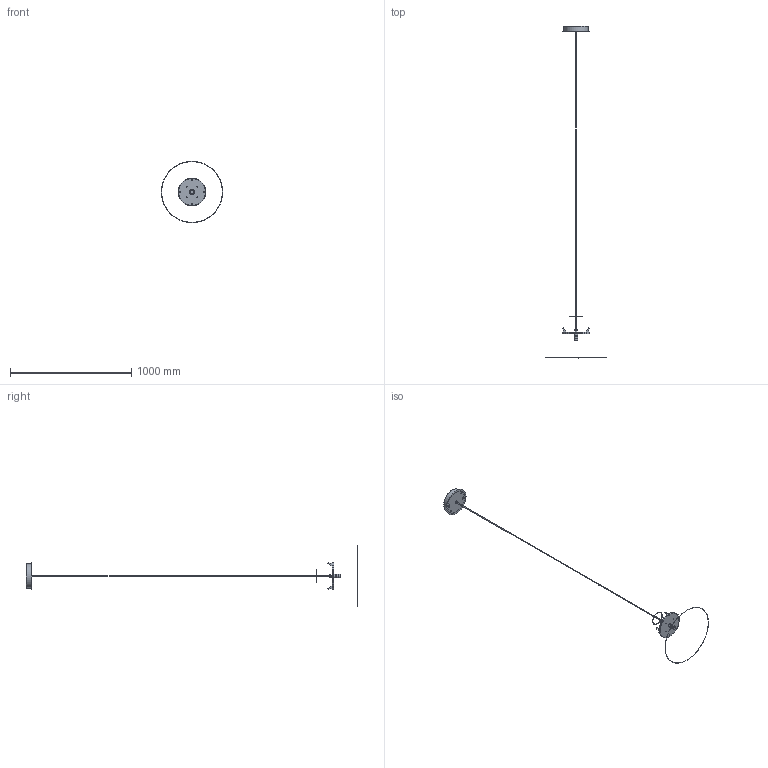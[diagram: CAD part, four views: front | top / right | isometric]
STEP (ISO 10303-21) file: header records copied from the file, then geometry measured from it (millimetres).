
FILE_DESCRIPTION(/* description */ (''),/* implementation_level */ '2;1');
FILE_NAME(/* name */ 'SOTTOSOPRA 1.stp',/* time_stamp */ '2024-05-16T12:11:14+02:00',/* author */ ('n.bisotti'),/* organization */ (''),/* preprocessor_version */ 'ST-DEVELOPER v19.2',/* originating_system */ 'Autodesk Inventor 2023',/* authorisation */ '');
FILE_SCHEMA (('AUTOMOTIVE_DESIGN { 1 0 10303 214 3 1 1 }'));
Length unit declared in the file: millimetre
Products named in the file (1): Parte2
Bounding box: 504.95 x 2735.75 x 504.95 mm (x, y, z)
Volume: 1417537 mm3; surface area: 1331888.8 mm2
Topology: 25 solids, 25 shells, 496 faces, 1190 edges, 776 vertices
Faces by surface type: plane 244, cylinder 174, cone 52, torus 26
Full cylindrical faces by diameter (mm): 2.459 x4, 2.693 x2, 3 x6, 3.2 x2, 3.25 x4, 3.5 x2, 4 x4, 4.2 x1, 5 x2, 5.5 x4, 6.25 x2, 6.4 x1, 7 x2, 7.11 x2, 8 x1, 8.25 x3, 11.1 x2, 18 x1, 20 x2, 22 x1, 22.917 x1, 23 x1, 24.5 x1, 27 x1, 40 x1, 45 x1, 75 x1, 198.7 x1, 200.7 x1, 223 x1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
Entity records: 15505 total; most frequent: CARTESIAN_POINT 2931, DIRECTION 2598, ORIENTED_EDGE 2372, EDGE_CURVE 1186, AXIS2_PLACEMENT_3D 987, VERTEX_POINT 776, LINE 624, VECTOR 624
